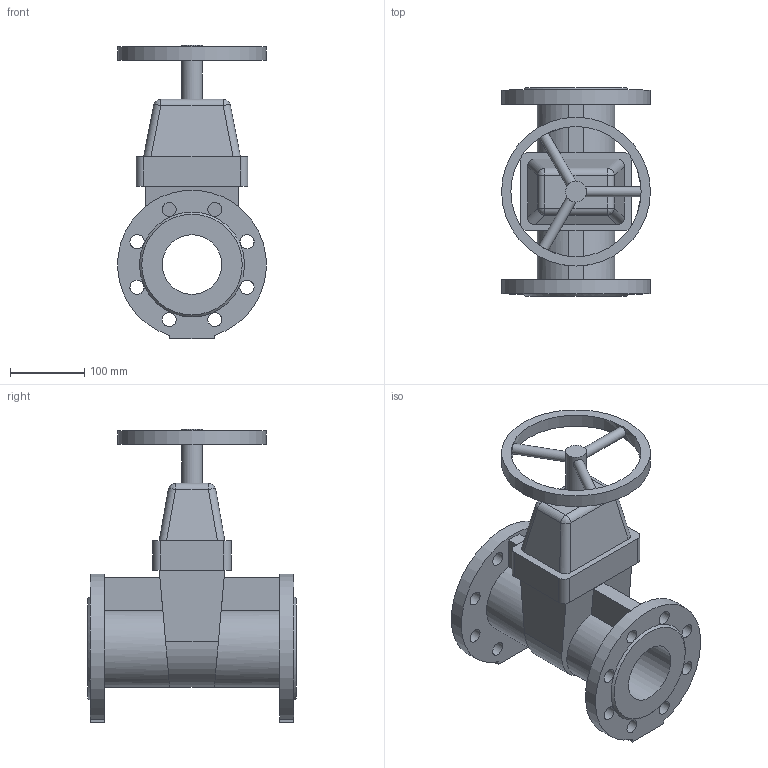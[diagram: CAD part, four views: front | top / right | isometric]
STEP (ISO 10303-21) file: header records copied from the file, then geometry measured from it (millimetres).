
FILE_DESCRIPTION(('STEP AP203'), '1');
FILE_NAME('Çàäâèæêà 47GV DN80 PN10_PN16_L280 ñ ìàõîâèêîì', '', ('UNSPECIFIED'), ('UNSPECIFIED'), 'ASCON STEP Converter 1.6', 'ASCON Math Kernel', '');
FILE_SCHEMA(('CONFIG_CONTROL_DESIGN'));
Length unit declared in the file: millimetre
Bounding box: 200 x 280 x 395 mm (x, y, z)
Volume: 4184747.2 mm3; surface area: 428502.2 mm2
Topology: 1 solids, 1 shells, 101 faces, 289 edges, 180 vertices
Faces by surface type: cylinder 48, plane 47, bspline 4, cone 2
Full cylindrical faces by diameter (mm): 14 x3, 19 x16, 28 x1, 80 x1, 175 x1, 200 x1
Entity records: 4837 total; most frequent: CARTESIAN_POINT 1481, DIRECTION 516, ORIENTED_EDGE 478, EDGE_CURVE 239, AXIS2_PLACEMENT_3D 198, EDGE_LOOP 178, VERTEX_POINT 169, FACE_BOUND 139
